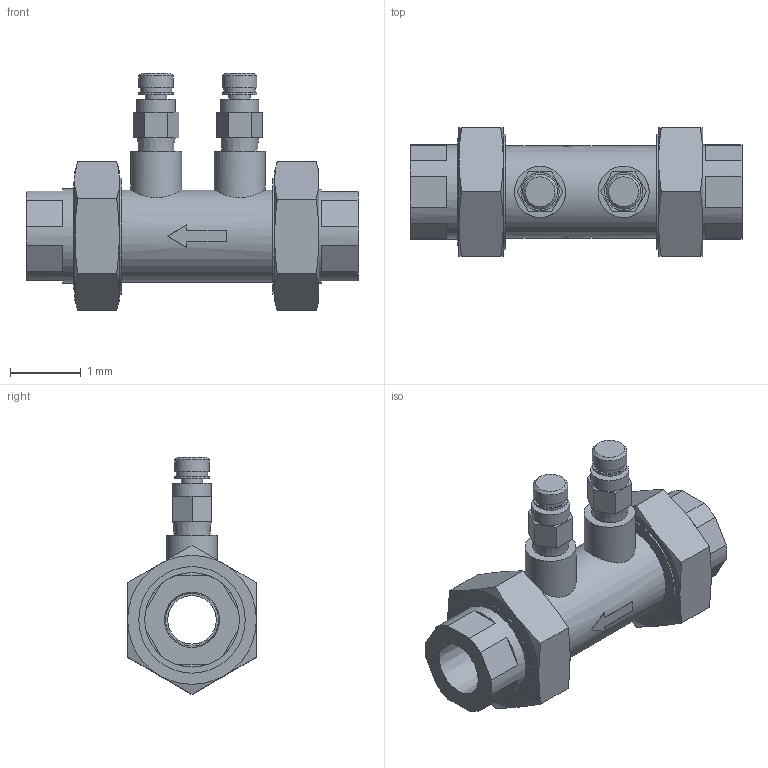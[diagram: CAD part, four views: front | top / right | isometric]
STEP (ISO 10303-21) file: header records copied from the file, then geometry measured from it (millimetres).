
FILE_DESCRIPTION(('Open CASCADE Model'),'2;1');
FILE_NAME('Open CASCADE Shape Model','2021-09-29T13:31:51',('Author'),( 'Open CASCADE'),'Open CASCADE STEP processor 7.3','Open CASCADE 7.3' ,'Unknown');
FILE_SCHEMA(('AUTOMOTIVE_DESIGN { 1 0 10303 214 1 1 1 1 }'));
Length unit declared in the file: millimetre
Products named in the file (8): Open CASCADE STEP translator 7.3 1; Open CASCADE STEP translator 7.3 1.1; Open CASCADE STEP translator 7.3 1.2; Open CASCADE STEP translator 7.3 1.3; Open CASCADE STEP translator 7.3 1.4; Open CASCADE STEP translator 7.3 1.5; Open CASCADE STEP translator 7.3 1.6; Open CASCADE STEP translator 7.3 1.7
Assembly tree (7 placements, depth 2):
  Open CASCADE STEP translator 7.3 1
    Open CASCADE STEP translator 7.3 1.1
    Open CASCADE STEP translator 7.3 1.2
    Open CASCADE STEP translator 7.3 1.3
    Open CASCADE STEP translator 7.3 1.4
    Open CASCADE STEP translator 7.3 1.5
    Open CASCADE STEP translator 7.3 1.6
    Open CASCADE STEP translator 7.3 1.7
Bounding box: 4.68 x 1.81 x 3.34 mm (x, y, z)
Volume: 5 mm3; surface area: 63.6 mm2
Topology: 1 solids, 12 shells, 202 faces, 444 edges, 296 vertices
Faces by surface type: plane 119, cylinder 42, cone 34, torus 7
Full cylindrical faces by diameter (mm): 0.1 x2, 0.165 x2, 0.3 x2, 0.33 x4, 0.44 x2, 0.49 x4, 0.538 x2, 0.682 x1, 0.72 x2, 0.89 x1, 1.05 x1, 1.136 x1, 1.229 x4, 1.3 x1, 1.33 x2, 1.425 x1, 1.429 x4, 1.5 x2, 1.535 x2, 1.63 x2
Entity records: 13840 total; most frequent: CARTESIAN_POINT 5054, DIRECTION 1622, ORIENTED_EDGE 866, PCURVE 866, DEFINITIONAL_REPRESENTATION 866, LINE 713, VECTOR 713, EDGE_CURVE 444
